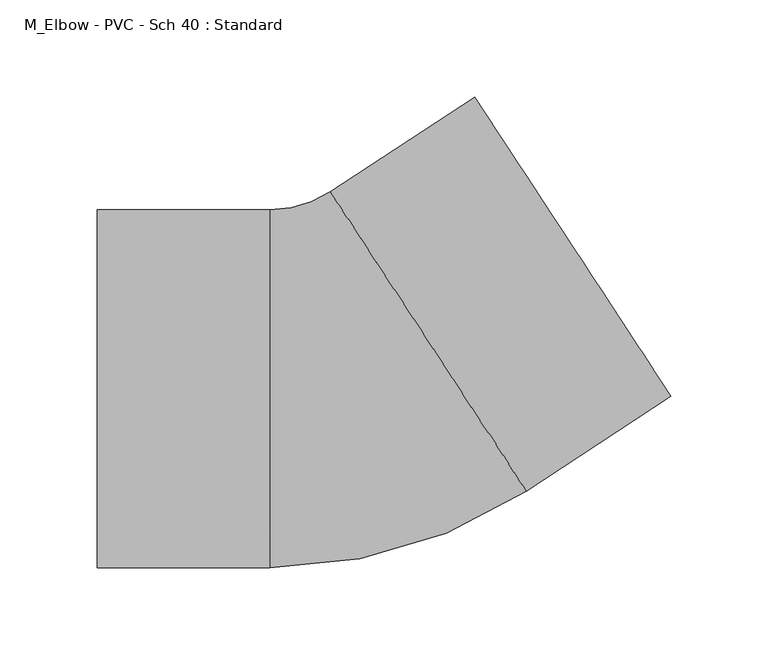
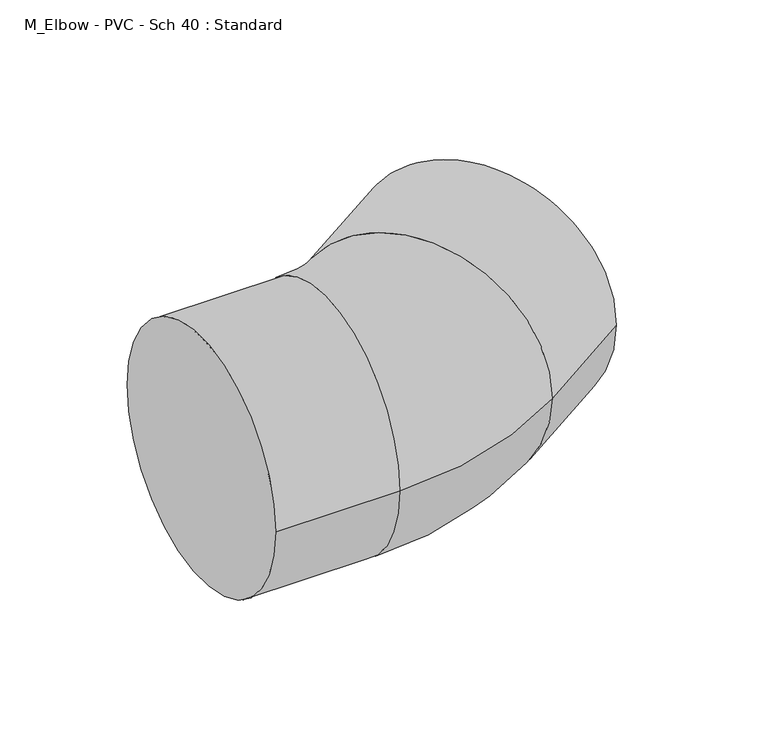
"""IFC4 building model written with IfcOpenShell, lengths in millimetres: pipe fitting geometry, M_Elbow - PVC - Sch 40 : Standard."""

from ifc_helpers import new_model, si_unit, point, frame, origin, place, context, project, spatial, circle_curve, ellipse_curve, trimmed, source, transform, mapped, element, save
from ifc_brep_helpers import plane_surface, cylinder_surface, revolved_surface, advanced_brep


def m_elbow_pvc_sch_40_standard_ea1b4964(model_context):
    return source(origin(), model_context, "Body", "AdvancedBrep", [
        advanced_brep(
        [(-133.35, -92.075, 0.0), (-133.35, 92.075, 0.0), (-44.45, -92.075, 0.0), (-44.45, 92.075, 0.0), (-13.3222684, 101.3712252, 0.0), (87.6627753, -52.6198248, 0.0), (162.0032821, -3.8684244, 0.0), (61.0182385, 150.1226255, 0.0)],
        [
            (0, 1, circle_curve(frame((-133.35, 0.0, 0.0), z_axis=(-1.0, 0.0, 0.0), x_axis=(0.0, 1.0, 0.0)), 92.075)),
            (1, 0, circle_curve(frame((-133.35, 0.0, 0.0), z_axis=(-1.0, 0.0, 0.0), x_axis=(0.0, 1.0, 0.0)), 92.075)),
            (0, 2),
            (2, 3, circle_curve(frame((-44.45, 0.0, 0.0), z_axis=(-1.0, 0.0, 0.0), x_axis=(0.0, 1.0, 0.0)), 92.075)),
            (3, 1),
            (3, 2, circle_curve(frame((-44.45, 0.0, 0.0), z_axis=(-1.0, 0.0, 0.0), x_axis=(0.0, 1.0, 0.0)), 92.075)),
            (4, 3, circle_curve(frame((-44.45, 148.8375815, 0.0), z_axis=(0.0, 0.0, -1.0), x_axis=(0.0, -1.0, 0.0)), 56.7625815)),
            (2, 5, circle_curve(frame((-44.45, 148.8375815, 0.0), z_axis=(0.0, 0.0, 1.0), x_axis=(0.0, -1.0, 0.0)), 240.9125815)),
            (5, 4, circle_curve(frame((37.1702534, 24.3757002, 0.0), z_axis=(-0.8362261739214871, -0.5483847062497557, 0.0), x_axis=(-0.5483847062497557, 0.8362261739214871, 0.0)), 92.075)),
            (4, 5, circle_curve(frame((37.1702534, 24.3757002, 0.0), z_axis=(-0.8362261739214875, -0.548384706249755, 0.0), x_axis=(-0.548384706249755, 0.8362261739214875, 0.0)), 92.075)),
            (6, 7, circle_curve(frame((111.5107603, 73.1271006, 0.0), z_axis=(0.836226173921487, 0.5483847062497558, 0.0), x_axis=(-0.5483847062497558, 0.836226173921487, 0.0)), 92.075)),
            (7, 6, circle_curve(frame((111.5107603, 73.1271006, 0.0), z_axis=(0.836226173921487, 0.5483847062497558, 0.0), x_axis=(-0.5483847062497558, 0.836226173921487, 0.0)), 92.075)),
            (5, 6),
            (7, 4),
        ],
        [
            plane_surface(frame((-133.35, 0.0, 0.0), z_axis=(-1.0, 0.0, 0.0), x_axis=(0.0, 0.0, 1.0))),
            cylinder_surface(frame((-133.35, 0.0, 0.0), z_axis=(-1.0, 0.0, 0.0), x_axis=(0.0, 1.0, 0.0)), 92.075),
            revolved_surface(trimmed(ellipse_curve(frame((-44.45, 0.0, 0.0), z_axis=(-1.0, 0.0, 0.0), x_axis=(0.0, 1.0, 0.0)), 92.075, 92.075), [point((-44.45, -92.075, 0.0))], [point((-44.45, 92.075, 0.0))], True, "CARTESIAN"), (-44.45, 148.8375815, 0.0), (0.0, 0.0, 1.0)),
            revolved_surface(trimmed(ellipse_curve(frame((-44.45, 0.0, 0.0), z_axis=(-1.0, 0.0, 0.0), x_axis=(0.0, 1.0, 0.0)), 92.075, 92.075), [point((-44.45, 92.075, 0.0))], [point((-44.45, -92.075, 0.0))], True, "CARTESIAN"), (-44.45, 148.8375815, 0.0), (0.0, 0.0, 1.0)),
            plane_surface(frame((111.5107603, 73.1271006, 0.0), z_axis=(0.836226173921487, 0.5483847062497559, 0.0), x_axis=(0.0, 0.0, 1.0))),
            cylinder_surface(frame((37.1702534, 24.3757002, 0.0), z_axis=(-0.836226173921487, -0.5483847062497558, 0.0), x_axis=(-0.5483847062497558, 0.836226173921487, 0.0)), 92.075),
        ],
        [
            (0, [[1, 2]]),
            (1, [[-1, 3, 4, 5]]),
            (1, [[-2, -5, 6, -3]]),
            (2, [[7, -4, 8, 9]]),
            (3, [[-8, -6, -7, 10]]),
            (4, [[11, 12]]),
            (5, [[-9, 13, -12, 14]]),
            (5, [[-10, -14, -11, -13]]),
        ],
    ),
    ])


if __name__ == "__main__":
    model = new_model("IFC4")
    model_context = context("Model", 3, world=origin())
    ifc_project = project(units=[si_unit("LENGTHUNIT", "METRE", prefix="MILLI")], contexts=[model_context])
    site = spatial("IfcSite", under=ifc_project)
    building = spatial("IfcBuilding", under=site)
    placement = place(None, origin())
    m_elbow_pvc_sch_40_standard_shape = m_elbow_pvc_sch_40_standard_ea1b4964(model_context)
    element("IfcPipeFitting", 1, ObjectType="M_Elbow - PVC - Sch 40 : Standard", at=placement, inside=building, context=model_context, shape_type="MappedRepresentation", body=[
        mapped(m_elbow_pvc_sch_40_standard_shape, transform((0.0, 0.0, 0.0), x_axis=(1.0, 0.0, 0.0), y_axis=(0.0, 1.0, 0.0), z_axis=(0.0, 0.0, 1.0))),
    ])
    save(model, "model.ifc")
